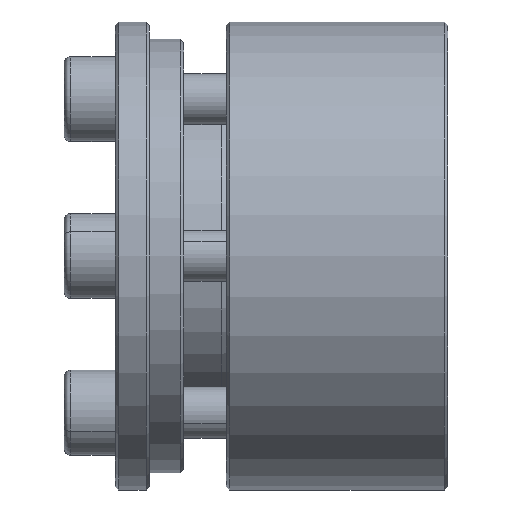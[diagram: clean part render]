
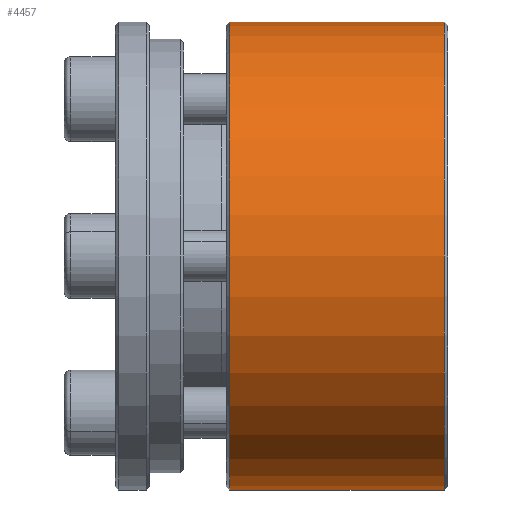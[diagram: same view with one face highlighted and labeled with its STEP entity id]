
A CAD part, front view. The second image highlights one B-rep face of the part: STEP entity #4457.
In plain terms, the highlighted cylindrical face has radius 27.46 mm (diameter 54.92 mm), a partial arc.
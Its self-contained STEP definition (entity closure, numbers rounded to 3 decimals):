
#481 = CARTESIAN_POINT ( 'NONE',  ( -67.166, 26.04, 27.46 ) ) ;
#558 = CARTESIAN_POINT ( 'NONE',  ( -67.166, 26.04, 0. ) ) ;
#1105 = AXIS2_PLACEMENT_3D ( 'NONE', #558, #2207, #6107 ) ;
#1361 = ORIENTED_EDGE ( 'NONE', *, *, #1960, .T. ) ;
#1464 = CARTESIAN_POINT ( 'NONE',  ( -92.366, 26.04, 0. ) ) ;
#1502 = LINE ( 'NONE', #3061, #6539 ) ;
#1506 = LINE ( 'NONE', #3686, #2180 ) ;
#1544 = CARTESIAN_POINT ( 'NONE',  ( -92.366, 26.04, -27.46 ) ) ;
#1639 = DIRECTION ( 'NONE',  ( -1., 0., 0. ) ) ;
#1700 = CARTESIAN_POINT ( 'NONE',  ( -67.166, 26.04, -27.46 ) ) ;
#1899 = EDGE_LOOP ( 'NONE', ( #5443, #2107, #3796, #1361 ) ) ;
#1936 = EDGE_CURVE ( 'NONE', #3815, #5240, #1502, .T. ) ;
#1960 = EDGE_CURVE ( 'NONE', #5689, #5240, #5271, .T. ) ;
#2107 = ORIENTED_EDGE ( 'NONE', *, *, #6386, .T. ) ;
#2180 = VECTOR ( 'NONE', #5866, 1000. ) ;
#2207 = DIRECTION ( 'NONE',  ( -1., 0., 0. ) ) ;
#2566 = DIRECTION ( 'NONE',  ( 0., 0., -1. ) ) ;
#2664 = VERTEX_POINT ( 'NONE', #481 ) ;
#3061 = CARTESIAN_POINT ( 'NONE',  ( -92.766, 26.04, -27.46 ) ) ;
#3444 = AXIS2_PLACEMENT_3D ( 'NONE', #1464, #5241, #2566 ) ;
#3686 = CARTESIAN_POINT ( 'NONE',  ( -92.766, 26.04, 27.46 ) ) ;
#3796 = ORIENTED_EDGE ( 'NONE', *, *, #4497, .T. ) ;
#3815 = VERTEX_POINT ( 'NONE', #1700 ) ;
#4245 = CARTESIAN_POINT ( 'NONE',  ( -92.766, 26.04, 0. ) ) ;
#4423 = CIRCLE ( 'NONE', #1105, 27.46 ) ;
#4457 = ADVANCED_FACE ( 'NONE', ( #4894 ), #6546, .T. ) ;
#4497 = EDGE_CURVE ( 'NONE', #2664, #5689, #1506, .T. ) ;
#4894 = FACE_OUTER_BOUND ( 'NONE', #1899, .T. ) ;
#5228 = CARTESIAN_POINT ( 'NONE',  ( -92.366, 26.04, 27.46 ) ) ;
#5240 = VERTEX_POINT ( 'NONE', #1544 ) ;
#5241 = DIRECTION ( 'NONE',  ( 1., 0., 0. ) ) ;
#5271 = CIRCLE ( 'NONE', #3444, 27.46 ) ;
#5279 = DIRECTION ( 'NONE',  ( -1., 0., 0. ) ) ;
#5443 = ORIENTED_EDGE ( 'NONE', *, *, #1936, .F. ) ;
#5689 = VERTEX_POINT ( 'NONE', #5228 ) ;
#5866 = DIRECTION ( 'NONE',  ( -1., 0., 0. ) ) ;
#5904 = DIRECTION ( 'NONE',  ( 0., 0., 1. ) ) ;
#6107 = DIRECTION ( 'NONE',  ( 0., 0., 1. ) ) ;
#6386 = EDGE_CURVE ( 'NONE', #3815, #2664, #4423, .T. ) ;
#6539 = VECTOR ( 'NONE', #5279, 1000. ) ;
#6546 = CYLINDRICAL_SURFACE ( 'NONE', #6851, 27.46 ) ;
#6851 = AXIS2_PLACEMENT_3D ( 'NONE', #4245, #1639, #5904 ) ;
